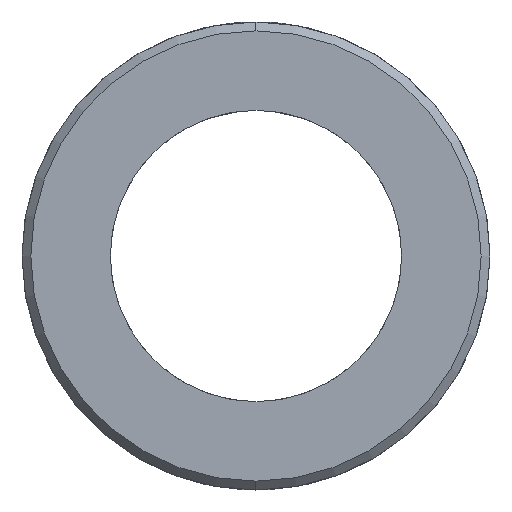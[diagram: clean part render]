
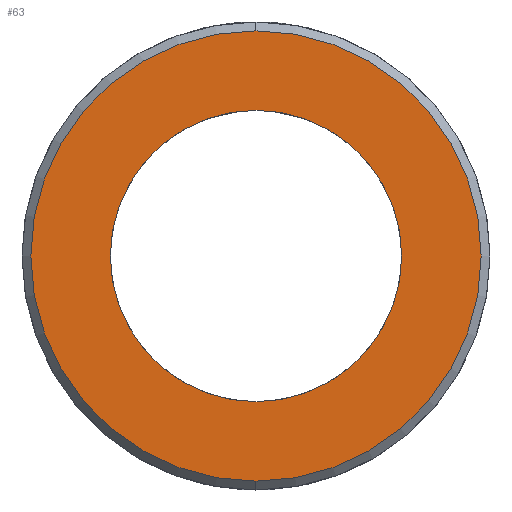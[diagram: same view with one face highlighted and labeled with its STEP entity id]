
A CAD part, left-side view. The second image highlights one B-rep face of the part: STEP entity #63.
In plain terms, the highlighted planar face has unit normal (-1, 0, 0).
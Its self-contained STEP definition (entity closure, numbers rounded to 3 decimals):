
#38 = CARTESIAN_POINT ( 'NONE',  ( -60., 0., 0. ) ) ;
#63 = ADVANCED_FACE ( 'NONE', ( #959, #246 ), #157, .F. ) ;
#96 = CARTESIAN_POINT ( 'NONE',  ( -60., 0., 0. ) ) ;
#128 = DIRECTION ( 'NONE',  ( 0., 0., 1. ) ) ;
#157 = PLANE ( 'NONE',  #238 ) ;
#191 = DIRECTION ( 'NONE',  ( 0., 0., 1. ) ) ;
#197 = CIRCLE ( 'NONE', #350, 16.5 ) ;
#238 = AXIS2_PLACEMENT_3D ( 'NONE', #1173, #811, #255 ) ;
#246 = FACE_BOUND ( 'NONE', #288, .T. ) ;
#249 = ORIENTED_EDGE ( 'NONE', *, *, #305, .T. ) ;
#255 = DIRECTION ( 'NONE',  ( 0., 0., -1. ) ) ;
#279 = DIRECTION ( 'NONE',  ( -1., 0., 0. ) ) ;
#288 = EDGE_LOOP ( 'NONE', ( #308, #719 ) ) ;
#305 = EDGE_CURVE ( 'NONE', #687, #446, #369, .T. ) ;
#308 = ORIENTED_EDGE ( 'NONE', *, *, #764, .F. ) ;
#349 = CARTESIAN_POINT ( 'NONE',  ( -60., 0., 0. ) ) ;
#350 = AXIS2_PLACEMENT_3D ( 'NONE', #38, #694, #128 ) ;
#369 = CIRCLE ( 'NONE', #1049, 25.5 ) ;
#433 = CIRCLE ( 'NONE', #929, 25.5 ) ;
#439 = DIRECTION ( 'NONE',  ( 0., 0., -1. ) ) ;
#440 = AXIS2_PLACEMENT_3D ( 'NONE', #96, #751, #191 ) ;
#446 = VERTEX_POINT ( 'NONE', #1117 ) ;
#487 = CARTESIAN_POINT ( 'NONE',  ( -60., 0., -16.5 ) ) ;
#562 = VERTEX_POINT ( 'NONE', #763 ) ;
#587 = VERTEX_POINT ( 'NONE', #487 ) ;
#687 = VERTEX_POINT ( 'NONE', #919 ) ;
#693 = ORIENTED_EDGE ( 'NONE', *, *, #983, .T. ) ;
#694 = DIRECTION ( 'NONE',  ( -1., 0., 0. ) ) ;
#719 = ORIENTED_EDGE ( 'NONE', *, *, #1186, .F. ) ;
#751 = DIRECTION ( 'NONE',  ( -1., 0., 0. ) ) ;
#763 = CARTESIAN_POINT ( 'NONE',  ( -60., 0., 16.5 ) ) ;
#764 = EDGE_CURVE ( 'NONE', #562, #587, #976, .T. ) ;
#795 = EDGE_LOOP ( 'NONE', ( #693, #249 ) ) ;
#811 = DIRECTION ( 'NONE',  ( 1., 0., 0. ) ) ;
#836 = CARTESIAN_POINT ( 'NONE',  ( -60., 0., 0. ) ) ;
#919 = CARTESIAN_POINT ( 'NONE',  ( -60., 0., 25.5 ) ) ;
#929 = AXIS2_PLACEMENT_3D ( 'NONE', #349, #993, #439 ) ;
#930 = DIRECTION ( 'NONE',  ( 0., 0., -1. ) ) ;
#959 = FACE_OUTER_BOUND ( 'NONE', #795, .T. ) ;
#976 = CIRCLE ( 'NONE', #440, 16.5 ) ;
#983 = EDGE_CURVE ( 'NONE', #446, #687, #433, .T. ) ;
#993 = DIRECTION ( 'NONE',  ( -1., 0., 0. ) ) ;
#1049 = AXIS2_PLACEMENT_3D ( 'NONE', #836, #279, #930 ) ;
#1117 = CARTESIAN_POINT ( 'NONE',  ( -60., 0., -25.5 ) ) ;
#1173 = CARTESIAN_POINT ( 'NONE',  ( -60., 16.5, 0. ) ) ;
#1186 = EDGE_CURVE ( 'NONE', #587, #562, #197, .T. ) ;
